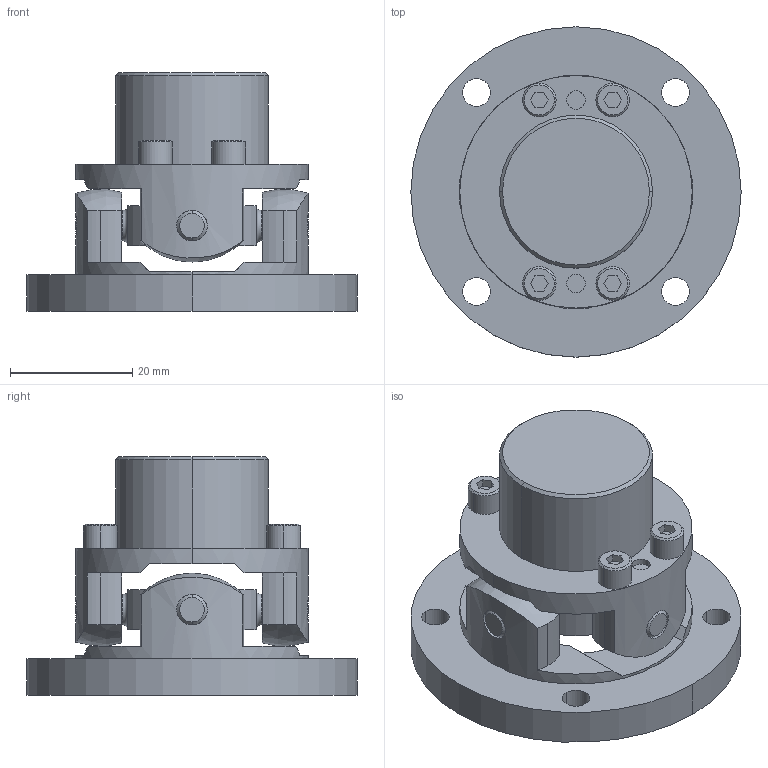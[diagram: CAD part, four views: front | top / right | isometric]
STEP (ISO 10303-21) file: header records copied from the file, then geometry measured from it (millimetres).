
FILE_DESCRIPTION((''),'2;1');
FILE_NAME('UCRF-38.stp','2013-06-12T16:20:10',(''),(''),'AutoCAD STEP 2000i','AutoCAD 2000i',', , ');
FILE_SCHEMA(('CONFIG_CONTROL_DESIGN'));
Length unit declared in the file: millimetre
Products named in the file (6): UCRF-38; 忣兜1; UCNF-3802; UCR-3802; UCR-3803; UCR-3804
Assembly tree (5 placements, depth 2):
  UCRF-38
    忣兜1
    UCNF-3802
    UCR-3802
    UCR-3803
    UCR-3804
Bounding box: 54 x 54 x 39 mm (x, y, z)
Volume: 29749.8 mm3; surface area: 13670.5 mm2
Topology: 1 solids, 1 shells, 245 faces, 647 edges, 457 vertices
Faces by surface type: plane 111, cylinder 90, cone 32, bspline 8, sphere 4
Entity records: 9017 total; most frequent: CARTESIAN_POINT 2612, DIRECTION 1386, ORIENTED_EDGE 1240, EDGE_CURVE 620, AXIS2_PLACEMENT_3D 524, VERTEX_POINT 406, VECTOR 338, LINE 338
